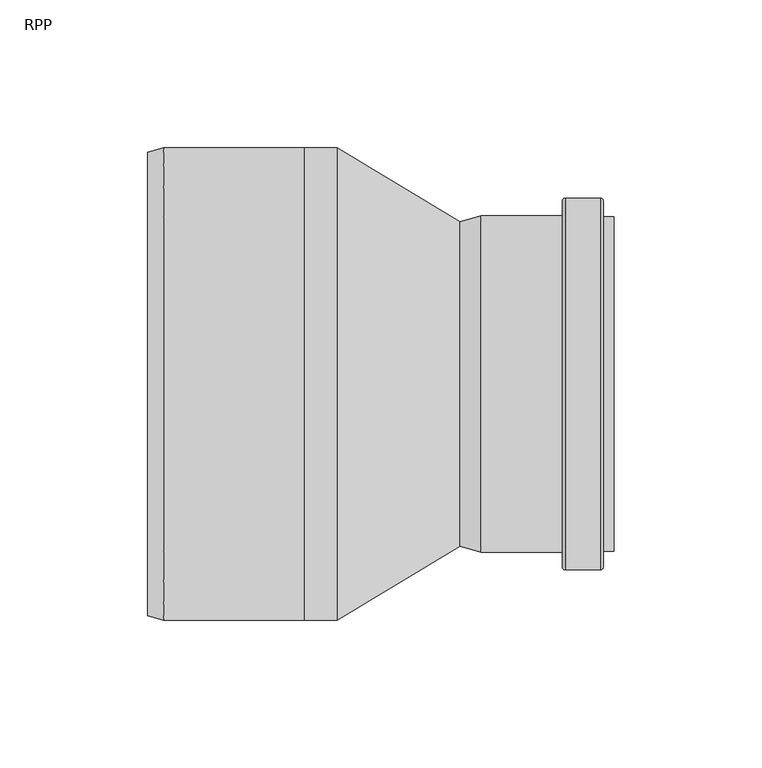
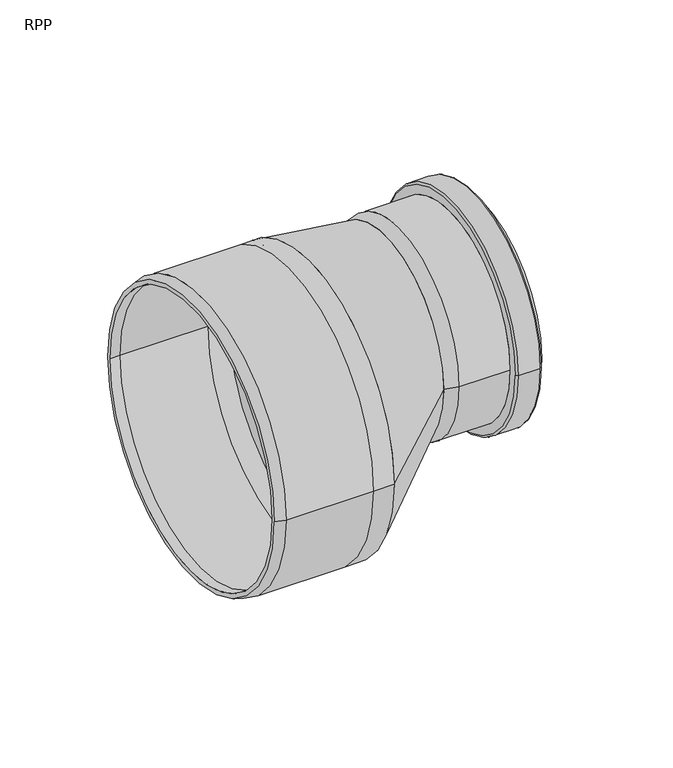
"""IFC4 building model written with IfcOpenShell, lengths in millimetres: pipe fitting geometry, RAUPIANO PLUS Reducer : RPP."""

from ifc_helpers import new_model, si_unit, point, frame, origin, place, context, project, spatial, polyline, circle_curve, ellipse_curve, trimmed, source, transform, mapped, element, save
from ifc_brep_helpers import plane_surface, cylinder_surface, revolved_surface, spline_surface, advanced_brep


def rpp_5421e8fe(model_context):
    return source(origin(), model_context, "Body", "AdvancedBrep", [
        advanced_brep(
        [(55.5, 56.9292342, 25.0), (55.5, -56.9292342, 25.0), (28.0, -56.9292342, 25.0), (28.0, 56.9292342, 25.0), (73.0, 56.6076952, 25.0), (73.0, -56.6076952, 25.0), (69.4, -56.6076952, 25.0), (69.4, 56.6076952, 25.0), (69.4, 54.2292342, 25.0), (69.4, -54.2292342, 25.0), (73.0, -54.2292342, 25.0), (73.0, 54.2292342, 25.0), (28.0, 54.2292342, 25.0), (28.0, -54.2292342, 25.0), (20.8, 52.3, 25.0), (20.8, -52.3, 25.0), (20.8, -55.0, 25.0), (20.8, 55.0, 25.0), (56.5, 62.9292342, 25.0), (56.5, -62.9292342, 25.0), (55.5, -61.9292342, 25.0), (55.5, 61.9292342, 25.0), (68.4, 62.9292342, 25.0), (68.4, -62.9292342, 25.0), (69.4, 61.9292342, 25.0), (69.4, -61.9292342, 25.0)],
        [
            (0, 1, circle_curve(frame((55.5, 0.0, 25.0), z_axis=(-1.0, 0.0, 0.0), x_axis=(0.0, -1.0, 0.0)), 56.9292342)),
            (1, 2),
            (2, 3, circle_curve(frame((28.0, 0.0, 25.0), z_axis=(1.0, 0.0, 0.0), x_axis=(0.0, -1.0, 0.0)), 56.9292342)),
            (3, 0),
            (4, 5, circle_curve(frame((73.0, 0.0, 25.0), z_axis=(-1.0, 0.0, 0.0), x_axis=(0.0, -1.0, 0.0)), 56.6076952)),
            (5, 6),
            (6, 7, circle_curve(frame((69.4, 0.0, 25.0), z_axis=(1.0, 0.0, 0.0), x_axis=(0.0, -1.0, 0.0)), 56.6076952)),
            (7, 4),
            (8, 9, circle_curve(frame((69.4, 0.0, 25.0), z_axis=(-1.0, 0.0, 0.0), x_axis=(0.0, -1.0, 0.0)), 54.2292342)),
            (9, 10),
            (10, 11, circle_curve(frame((73.0, 0.0, 25.0), z_axis=(1.0, 0.0, 0.0), x_axis=(0.0, -1.0, 0.0)), 54.2292342)),
            (11, 8),
            (12, 13, circle_curve(frame((28.0, 0.0, 25.0), z_axis=(-1.0, 0.0, 0.0), x_axis=(0.0, -1.0, 0.0)), 54.2292342)),
            (13, 9),
            (8, 12),
            (14, 15, circle_curve(frame((20.8, 0.0, 25.0), z_axis=(-1.0, 0.0, 0.0), x_axis=(0.0, -1.0, 0.0)), 52.3)),
            (15, 13),
            (12, 14),
            (2, 16),
            (16, 17, circle_curve(frame((20.8, 0.0, 25.0), z_axis=(1.0, 0.0, 0.0), x_axis=(0.0, -1.0, 0.0)), 55.0)),
            (17, 3),
            (1, 0, circle_curve(frame((55.5, 0.0, 25.0), z_axis=(-1.0, 0.0, 0.0), x_axis=(0.0, 1.0, 0.0)), 56.9292342)),
            (3, 2, circle_curve(frame((28.0, 0.0, 25.0), z_axis=(1.0, 0.0, 0.0), x_axis=(0.0, 1.0, 0.0)), 56.9292342)),
            (5, 4, circle_curve(frame((73.0, 0.0, 25.0), z_axis=(-1.0, 0.0, 0.0), x_axis=(0.0, 1.0, 0.0)), 56.6076952)),
            (7, 6, circle_curve(frame((69.4, 0.0, 25.0), z_axis=(1.0, 0.0, 0.0), x_axis=(0.0, 1.0, 0.0)), 56.6076952)),
            (10, 11, circle_curve(frame((73.0, 0.0, 25.0), z_axis=(-1.0, 0.0, 0.0), x_axis=(0.0, 1.0, 0.0)), 54.2292342)),
            (9, 8, circle_curve(frame((69.4, 0.0, 25.0), z_axis=(-1.0, 0.0, 0.0), x_axis=(0.0, 1.0, 0.0)), 54.2292342)),
            (13, 12, circle_curve(frame((28.0, 0.0, 25.0), z_axis=(-1.0, 0.0, 0.0), x_axis=(0.0, 1.0, 0.0)), 54.2292342)),
            (15, 14, circle_curve(frame((20.8, 0.0, 25.0), z_axis=(-1.0, 0.0, 0.0), x_axis=(0.0, 1.0, 0.0)), 52.3)),
            (17, 16, circle_curve(frame((20.8, 0.0, 25.0), z_axis=(1.0, 0.0, 0.0), x_axis=(0.0, 1.0, 0.0)), 55.0)),
            (18, 19, circle_curve(frame((56.5, 0.0, 25.0), z_axis=(-1.0, 0.0, 0.0), x_axis=(0.0, -1.0, 0.0)), 62.9292342)),
            (19, 20, circle_curve(frame((56.5, -61.9292342, 25.0), z_axis=(0.0, 0.0, -1.0), x_axis=(1.0, 0.0, 0.0)), 1.0)),
            (20, 21, circle_curve(frame((55.5, 0.0, 25.0), z_axis=(1.0, 0.0, 0.0), x_axis=(0.0, -1.0, 0.0)), 61.9292342)),
            (21, 18, circle_curve(frame((56.5, 61.9292342, 25.0), z_axis=(0.0, 0.0, -1.0), x_axis=(1.0, 0.0, 0.0)), 1.0)),
            (22, 23, circle_curve(frame((68.4, 0.0, 25.0), z_axis=(-1.0, 0.0, 0.0), x_axis=(0.0, -1.0, 0.0)), 62.9292342)),
            (23, 19),
            (18, 22),
            (24, 25, circle_curve(frame((69.4, 0.0, 25.0), z_axis=(-1.0, 0.0, 0.0), x_axis=(0.0, -1.0, 0.0)), 61.9292342)),
            (25, 23, circle_curve(frame((68.4, -61.9292342, 25.0), z_axis=(0.0, 0.0, -1.0), x_axis=(1.0, 0.0, 0.0)), 1.0)),
            (22, 24, circle_curve(frame((68.4, 61.9292342, 25.0), z_axis=(0.0, 0.0, -1.0), x_axis=(1.0, 0.0, 0.0)), 1.0)),
            (20, 21, circle_curve(frame((55.5, 0.0, 25.0), z_axis=(-1.0, 0.0, 0.0), x_axis=(0.0, 1.0, 0.0)), 61.9292342)),
            (19, 18, circle_curve(frame((56.5, 0.0, 25.0), z_axis=(-1.0, 0.0, 0.0), x_axis=(0.0, 1.0, 0.0)), 62.9292342)),
            (23, 22, circle_curve(frame((68.4, 0.0, 25.0), z_axis=(-1.0, 0.0, 0.0), x_axis=(0.0, 1.0, 0.0)), 62.9292342)),
            (25, 24, circle_curve(frame((69.4, 0.0, 25.0), z_axis=(-1.0, 0.0, 0.0), x_axis=(0.0, 1.0, 0.0)), 61.9292342)),
        ],
        [
            cylinder_surface(frame((0.0, 0.0, 25.0), z_axis=(1.0, 0.0, 0.0), x_axis=(0.0, -1.0, 0.0)), 56.9292342),
            cylinder_surface(frame((0.0, 0.0, 25.0), z_axis=(1.0, 0.0, 0.0), x_axis=(0.0, -1.0, 0.0)), 56.6076952),
            revolved_surface(polyline([(73.0, -54.2292342, 25.0), (69.4, -54.2292342, 25.0)]), (0.0, 0.0, 25.0), (1.0, 0.0, 0.0)),
            revolved_surface(polyline([(69.4, -54.2292342, 25.0), (28.0, -54.2292342, 25.0)]), (0.0, 0.0, 25.0), (1.0, 0.0, 0.0)),
            revolved_surface(polyline([(28.0, -54.2292342, 25.0), (20.8, -52.3, 25.0)]), (0.0, 0.0, 25.0), (1.0, 0.0, 0.0)),
            revolved_surface(polyline([(20.8, -55.0, 25.0), (28.0, -56.9292342, 25.0)]), (0.0, 0.0, 25.0), (1.0, 0.0, 0.0)),
            cylinder_surface(frame((0.0, 0.0, 25.0), z_axis=(1.0, 0.0, 0.0), x_axis=(0.0, 1.0, 0.0)), 56.9292342),
            cylinder_surface(frame((0.0, 0.0, 25.0), z_axis=(1.0, 0.0, 0.0), x_axis=(0.0, 1.0, 0.0)), 56.6076952),
            plane_surface(frame((73.0, 0.0, 25.0), z_axis=(1.0, 0.0, 0.0), x_axis=(0.0, 1.0, 0.0))),
            revolved_surface(polyline([(73.0, 54.2292342, 25.0), (69.4, 54.2292342, 25.0)]), (0.0, 0.0, 25.0), (1.0, 0.0, 0.0)),
            revolved_surface(polyline([(69.4, 54.2292342, 25.0), (28.0, 54.2292342, 25.0)]), (0.0, 0.0, 25.0), (1.0, 0.0, 0.0)),
            revolved_surface(polyline([(28.0, 54.2292342, 25.0), (20.8, 52.3, 25.0)]), (0.0, 0.0, 25.0), (1.0, 0.0, 0.0)),
            revolved_surface(polyline([(20.8, 55.0, 25.0), (28.0, 56.9292342, 25.0)]), (0.0, 0.0, 25.0), (1.0, 0.0, 0.0)),
            revolved_surface(trimmed(ellipse_curve(frame((56.5, -61.9292342, 25.0), z_axis=(0.0, 0.0, 1.0), x_axis=(1.0, 0.0, 0.0)), 1.0, 1.0), [point((55.5, -61.9292342, 25.0))], [point((56.5, -62.9292342, 25.0))], True, "CARTESIAN"), (0.0, 0.0, 25.0), (1.0, 0.0, 0.0)),
            cylinder_surface(frame((0.0, 0.0, 25.0), z_axis=(1.0, 0.0, 0.0), x_axis=(0.0, -1.0, 0.0)), 62.9292342),
            revolved_surface(trimmed(ellipse_curve(frame((68.4, -61.9292342, 25.0), z_axis=(0.0, 0.0, 1.0), x_axis=(1.0, 0.0, 0.0)), 1.0, 1.0), [point((68.4, -62.9292342, 25.0))], [point((69.4, -61.9292342, 25.0))], True, "CARTESIAN"), (0.0, 0.0, 25.0), (1.0, 0.0, 0.0)),
            plane_surface(frame((55.5, 0.0, 25.0), z_axis=(-1.0, 0.0, 0.0), x_axis=(0.0, 1.0, 0.0))),
            revolved_surface(trimmed(ellipse_curve(frame((56.5, 61.9292342, 25.0), z_axis=(0.0, 0.0, -1.0), x_axis=(1.0, 0.0, 0.0)), 1.0, 1.0), [point((55.5, 61.9292342, 25.0))], [point((56.5, 62.9292342, 25.0))], True, "CARTESIAN"), (0.0, 0.0, 25.0), (1.0, 0.0, 0.0)),
            cylinder_surface(frame((0.0, 0.0, 25.0), z_axis=(1.0, 0.0, 0.0), x_axis=(0.0, 1.0, 0.0)), 62.9292342),
            revolved_surface(trimmed(ellipse_curve(frame((68.4, 61.9292342, 25.0), z_axis=(0.0, 0.0, -1.0), x_axis=(1.0, 0.0, 0.0)), 1.0, 1.0), [point((68.4, 62.9292342, 25.0))], [point((69.4, 61.9292342, 25.0))], True, "CARTESIAN"), (0.0, 0.0, 25.0), (1.0, 0.0, 0.0)),
            plane_surface(frame((69.4, 0.0, 25.0), z_axis=(1.0, 0.0, 0.0), x_axis=(0.0, 1.0, 0.0))),
            plane_surface(frame((20.8, 0.0, 25.0), z_axis=(-1.0, 0.0, 0.0), x_axis=(0.0, 1.0, 0.0))),
        ],
        [
            (0, [[1, 2, 3, 4]]),
            (1, [[5, 6, 7, 8]]),
            (2, [[9, 10, 11, 12]]),
            (3, [[13, 14, -9, 15]]),
            (4, [[16, 17, -13, 18]]),
            (5, [[-3, 19, 20, 21]]),
            (6, [[22, -4, 23, -2]]),
            (7, [[24, -8, 25, -6]]),
            (8, [[-24, -5], [26, -11]]),
            (9, [[27, -12, -26, -10]]),
            (10, [[28, -15, -27, -14]]),
            (11, [[29, -18, -28, -17]]),
            (12, [[-23, -21, 30, -19]]),
            (13, [[31, 32, 33, 34]]),
            (14, [[35, 36, -31, 37]]),
            (15, [[38, 39, -35, 40]]),
            (16, [[41, -33], [-22, -1]]),
            (17, [[42, -34, -41, -32]]),
            (18, [[43, -37, -42, -36]]),
            (19, [[44, -40, -43, -39]]),
            (20, [[-44, -38], [-25, -7]]),
            (21, [[-30, -20], [-29, -16]]),
        ],
    ),
        advanced_brep(
        [(-20.8, 80.0, 0.0), (-20.8, -80.0, 0.0), (-31.8, -80.0, 0.0), (-31.8, 80.0, 0.0), (-31.8, 76.1, 0.0), (-31.8, -76.1, 0.0), (-20.8, -76.1, 0.0), (-20.8, 76.1, 0.0), (-79.5, 76.1, 0.0), (-79.5, -76.1, 0.0), (-85.0, 76.1, 0.0), (-85.0, -76.1, 0.0), (-79.5, 80.0, 0.0), (-79.5, -80.0, 0.0), (-85.0, -78.5262794, 0.0), (-85.0, 78.5262794, 0.0)],
        [
            (0, 1, circle_curve(frame((-20.8, 0.0, 0.0), z_axis=(-1.0, 0.0, 0.0), x_axis=(0.0, -1.0, 0.0)), 80.0)),
            (1, 2),
            (2, 3, circle_curve(frame((-31.8, 0.0, 0.0), z_axis=(1.0, 0.0, 0.0), x_axis=(0.0, -1.0, 0.0)), 80.0)),
            (3, 0),
            (4, 5, circle_curve(frame((-31.8, 0.0, 0.0), z_axis=(-1.0, 0.0, 0.0), x_axis=(0.0, -1.0, 0.0)), 76.1)),
            (5, 6),
            (6, 7, circle_curve(frame((-20.8, 0.0, 0.0), z_axis=(1.0, 0.0, 0.0), x_axis=(0.0, -1.0, 0.0)), 76.1)),
            (7, 4),
            (8, 9, circle_curve(frame((-79.5, 0.0, 0.0), z_axis=(-1.0, 0.0, 0.0), x_axis=(0.0, -1.0, 0.0)), 76.1)),
            (9, 5),
            (4, 8),
            (10, 11, circle_curve(frame((-85.0, 0.0, 0.0), z_axis=(-1.0, 0.0, 0.0), x_axis=(0.0, -1.0, 0.0)), 76.1)),
            (11, 9),
            (8, 10),
            (12, 13, circle_curve(frame((-79.5, 0.0, 0.0), z_axis=(-1.0, 0.0, 0.0), x_axis=(0.0, -1.0, 0.0)), 80.0)),
            (13, 14),
            (14, 15, circle_curve(frame((-85.0, 0.0, 0.0), z_axis=(1.0, 0.0, 0.0), x_axis=(0.0, -1.0, 0.0)), 78.5262794)),
            (15, 12),
            (2, 13),
            (12, 3),
            (1, 0, circle_curve(frame((-20.8, 0.0, 0.0), z_axis=(-1.0, 0.0, 0.0), x_axis=(0.0, 1.0, 0.0)), 80.0)),
            (3, 2, circle_curve(frame((-31.8, 0.0, 0.0), z_axis=(1.0, 0.0, 0.0), x_axis=(0.0, 1.0, 0.0)), 80.0)),
            (6, 7, circle_curve(frame((-20.8, 0.0, 0.0), z_axis=(-1.0, 0.0, 0.0), x_axis=(0.0, 1.0, 0.0)), 76.1)),
            (5, 4, circle_curve(frame((-31.8, 0.0, 0.0), z_axis=(-1.0, 0.0, 0.0), x_axis=(0.0, 1.0, 0.0)), 76.1)),
            (9, 8, circle_curve(frame((-79.5, 0.0, 0.0), z_axis=(-1.0, 0.0, 0.0), x_axis=(0.0, 1.0, 0.0)), 76.1)),
            (11, 10, circle_curve(frame((-85.0, 0.0, 0.0), z_axis=(-1.0, 0.0, 0.0), x_axis=(0.0, 1.0, 0.0)), 76.1)),
            (14, 15, circle_curve(frame((-85.0, 0.0, 0.0), z_axis=(-1.0, 0.0, 0.0), x_axis=(0.0, 1.0, 0.0)), 78.5262794)),
            (13, 12, circle_curve(frame((-79.5, 0.0, 0.0), z_axis=(-1.0, 0.0, 0.0), x_axis=(0.0, 1.0, 0.0)), 80.0)),
        ],
        [
            cylinder_surface(frame((0.0, 0.0, 0.0), z_axis=(1.0, 0.0, 0.0), x_axis=(0.0, -1.0, 0.0)), 80.0),
            revolved_surface(polyline([(-20.8, -76.1, 0.0), (-31.8, -76.1, 0.0)]), (0.0, 0.0, 0.0), (1.0, 0.0, 0.0)),
            revolved_surface(polyline([(-31.8, -76.1, 0.0), (-79.5, -76.1, 0.0)]), (0.0, 0.0, 0.0), (1.0, 0.0, 0.0)),
            revolved_surface(polyline([(-79.5, -76.1, 0.0), (-85.0, -76.1, 0.0)]), (0.0, 0.0, 0.0), (1.0, 0.0, 0.0)),
            revolved_surface(polyline([(-85.0, -78.5262794, 0.0), (-79.5, -80.0, 0.0)]), (0.0, 0.0, 0.0), (1.0, 0.0, 0.0)),
            cylinder_surface(frame((0.0, 0.0, 0.0), z_axis=(1.0, 0.0, 0.0), x_axis=(0.0, 1.0, 0.0)), 80.0),
            plane_surface(frame((-20.8, 0.0, 0.0), z_axis=(1.0, 0.0, 0.0), x_axis=(0.0, 1.0, 0.0))),
            revolved_surface(polyline([(-20.8, 76.1, 0.0), (-31.8, 76.1, 0.0)]), (0.0, 0.0, 0.0), (1.0, 0.0, 0.0)),
            revolved_surface(polyline([(-31.8, 76.1, 0.0), (-79.5, 76.1, 0.0)]), (0.0, 0.0, 0.0), (1.0, 0.0, 0.0)),
            revolved_surface(polyline([(-79.5, 76.1, 0.0), (-85.0, 76.1, 0.0)]), (0.0, 0.0, 0.0), (1.0, 0.0, 0.0)),
            plane_surface(frame((-85.0, 0.0, 0.0), z_axis=(-1.0, 0.0, 0.0), x_axis=(0.0, 1.0, 0.0))),
            revolved_surface(polyline([(-85.0, 78.5262794, 0.0), (-79.5, 80.0, 0.0)]), (0.0, 0.0, 0.0), (1.0, 0.0, 0.0)),
        ],
        [
            (0, [[1, 2, 3, 4]]),
            (1, [[5, 6, 7, 8]]),
            (2, [[9, 10, -5, 11]]),
            (3, [[12, 13, -9, 14]]),
            (4, [[15, 16, 17, 18]]),
            (0, [[-3, 19, -15, 20]]),
            (5, [[21, -4, 22, -2]]),
            (6, [[-21, -1], [23, -7]]),
            (7, [[24, -8, -23, -6]]),
            (8, [[25, -11, -24, -10]]),
            (9, [[26, -14, -25, -13]]),
            (10, [[27, -17], [-26, -12]]),
            (11, [[28, -18, -27, -16]]),
            (5, [[-22, -20, -28, -19]]),
        ],
    ),
        advanced_brep(
        [(20.8, -55.0, 25.0), (20.8, 55.0, 25.0), (-20.8, -80.0, 0.0), (-20.8, 80.0, 0.0)],
        [
            (0, 1, circle_curve(frame((20.8, 0.0, 25.0), z_axis=(1.0, 0.0, 0.0), x_axis=(0.0, 1.0, 0.0)), 55.0)),
            (1, 0, circle_curve(frame((20.8, 0.0, 25.0), z_axis=(1.0, 0.0, 0.0), x_axis=(0.0, 1.0, 0.0)), 55.0)),
            (2, 3, circle_curve(frame((-20.8, 0.0, 0.0), z_axis=(-1.0, 0.0, 0.0), x_axis=(0.0, 1.0, 0.0)), 80.0)),
            (3, 2, circle_curve(frame((-20.8, 0.0, 0.0), z_axis=(-1.0, 0.0, 0.0), x_axis=(0.0, 1.0, 0.0)), 80.0)),
            (3, 1),
            (0, 2),
        ],
        [
            plane_surface(frame((20.8, 0.0, 25.0), z_axis=(1.0, 0.0, 0.0), x_axis=(0.0, 0.0, -1.0))),
            plane_surface(frame((-20.8, 0.0, 0.0), z_axis=(-1.0, 0.0, 0.0), x_axis=(0.0, 0.0, -1.0))),
            spline_surface(2, 1, [[(-20.8, -80.0, 0.0), (20.8, -55.0, 25.0)], [(-20.8, -80.0, -80.0), (20.8, -55.0, -30.0)], [(-20.8, 0.0, -80.0), (20.8, 0.0, -30.0)], [(-20.8, 80.0, -80.0), (20.8, 55.0, -30.0)], [(-20.8, 80.0, 0.0), (20.8, 55.0, 25.0)]], [3, 2, 3], [2, 2], [0.0, 1.0, 2.0], [0.0, 1.0], weights=[[1.0, 1.0], [0.7071067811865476, 0.7071067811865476], [1.0, 1.0], [0.7071067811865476, 0.7071067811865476], [1.0, 1.0]]),
            spline_surface(2, 1, [[(-20.8, 80.0, 0.0), (20.8, 55.0, 25.0)], [(-20.8, 80.0, 80.0), (20.8, 55.0, 80.0)], [(-20.8, 0.0, 80.0), (20.8, 0.0, 80.0)], [(-20.8, -80.0, 80.0), (20.8, -55.0, 80.0)], [(-20.8, -80.0, 0.0), (20.8, -55.0, 25.0)]], [3, 2, 3], [2, 2], [0.0, 1.0, 2.0], [0.0, 1.0], weights=[[1.0, 1.0], [0.7071067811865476, 0.7071067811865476], [1.0, 1.0], [0.7071067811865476, 0.7071067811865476], [1.0, 1.0]]),
        ],
        [
            (0, [[1, 2]]),
            (1, [[3, 4]]),
            (2, [[-4, 5, -1, 6]]),
            (3, [[-3, -6, -2, -5]]),
        ],
    ),
    ])


if __name__ == "__main__":
    model = new_model("IFC4")
    model_context = context("Model", 3, world=origin())
    ifc_project = project(units=[si_unit("LENGTHUNIT", "METRE", prefix="MILLI")], contexts=[model_context])
    site = spatial("IfcSite", under=ifc_project)
    building = spatial("IfcBuilding", under=site)
    placement = place(None, origin())
    rpp_shape = rpp_5421e8fe(model_context)
    element("IfcPipeFitting", 1, ObjectType="RAUPIANO PLUS Reducer : RPP", at=placement, inside=building, context=model_context, shape_type="MappedRepresentation", body=[
        mapped(rpp_shape, transform((0.0, 0.0, 0.0), x_axis=(1.0, 0.0, 0.0), y_axis=(0.0, 1.0, 0.0), z_axis=(0.0, 0.0, 1.0))),
    ])
    save(model, "model.ifc")
